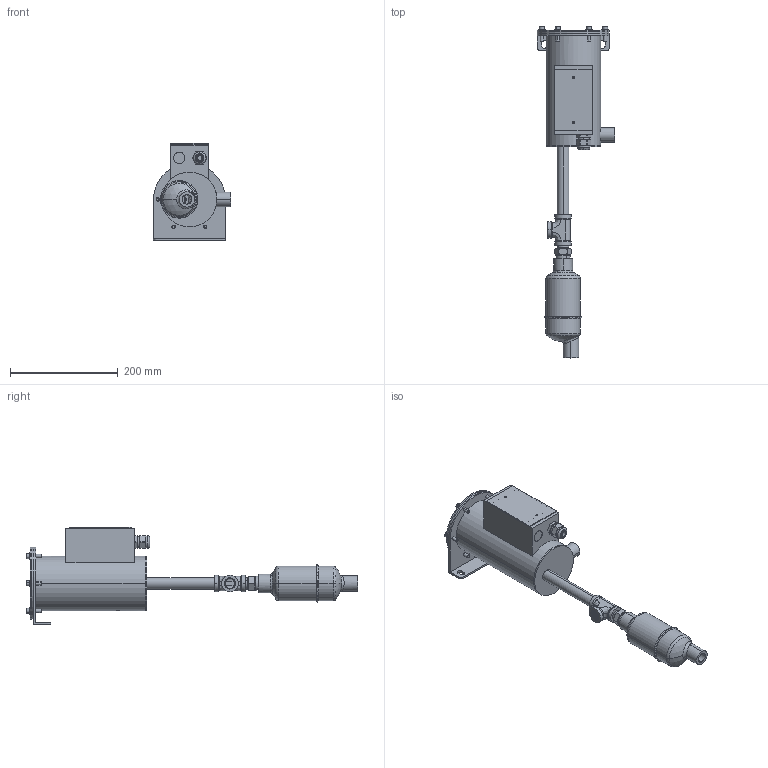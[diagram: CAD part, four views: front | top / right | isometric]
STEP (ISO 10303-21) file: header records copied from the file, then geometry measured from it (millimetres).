
FILE_DESCRIPTION (( 'STEP AP214' ), '1' );
FILE_NAME ('9-0483-02.STEP', '2018-07-25T15:23:14', ( '' ), ( '' ), 'SwSTEP 2.0', 'SolidWorks 2017', '' );
FILE_SCHEMA (( 'AUTOMOTIVE_DESIGN' ));
Length unit declared in the file: inch
Products named in the file (1): 9-0483-02
Bounding box: 142.88 x 615.33 x 179.94 mm (x, y, z)
Surface area: 276794.9 mm2 (no closed solid volume)
Topology: 0 solids, 42 shells, 372 faces, 1051 edges, 715 vertices
Faces by surface type: plane 126, cylinder 123, cone 75, bspline 32, torus 12, sphere 4
Entity records: 24077 total; most frequent: CARTESIAN_POINT 9675, DIRECTION 2044, ORIENTED_EDGE 1765, EDGE_CURVE 1045, AXIS2_PLACEMENT_3D 799, VERTEX_POINT 715, CIRCLE 458, EDGE_LOOP 454
